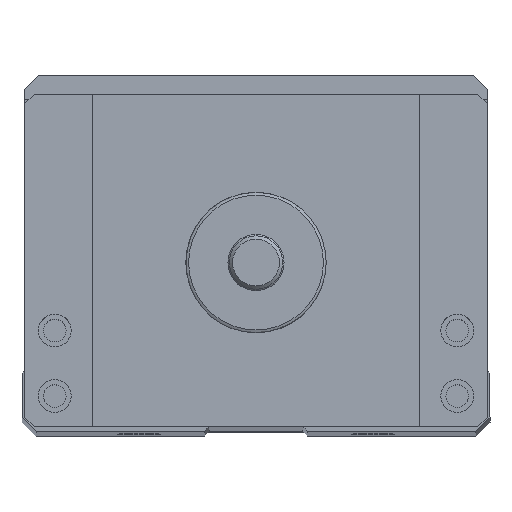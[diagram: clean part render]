
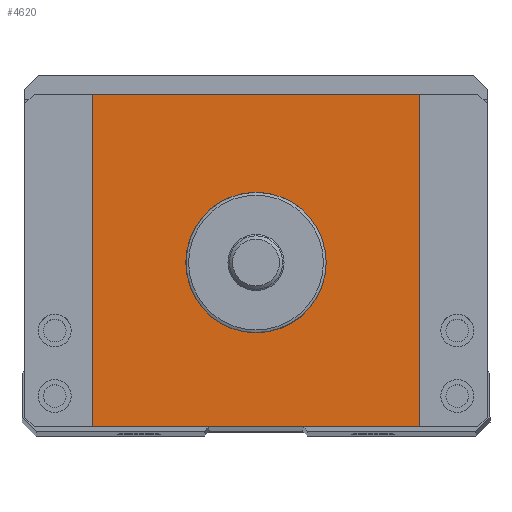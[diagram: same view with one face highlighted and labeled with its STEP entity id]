
A CAD part, top view. The second image highlights one B-rep face of the part: STEP entity #4620.
In plain terms, the highlighted planar face has unit normal (0, 0, 1).
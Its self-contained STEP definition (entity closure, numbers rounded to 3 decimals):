
#4620=ADVANCED_FACE('',(#5410,#5411),#4972,.T.);
#4972=PLANE('',#15098);
#5410=FACE_BOUND('',#6292,.T.);
#5411=FACE_BOUND('',#6293,.T.);
#6292=EDGE_LOOP('',(#9675));
#6293=EDGE_LOOP('',(#9676,#9677,#9678,#9679));
#6770=CIRCLE('',#15097,7.5);
#9675=ORIENTED_EDGE('',*,*,#12269,.T.);
#9676=ORIENTED_EDGE('',*,*,#12270,.T.);
#9677=ORIENTED_EDGE('',*,*,#12271,.T.);
#9678=ORIENTED_EDGE('',*,*,#12266,.T.);
#9679=ORIENTED_EDGE('',*,*,#12272,.T.);
#10784=VERTEX_POINT('',#29430);
#10785=VERTEX_POINT('',#29432);
#10787=VERTEX_POINT('',#29438);
#10788=VERTEX_POINT('',#29440);
#10789=VERTEX_POINT('',#29441);
#12266=EDGE_CURVE('',#10785,#10784,#13145,.T.);
#12269=EDGE_CURVE('',#10787,#10787,#6770,.T.);
#12270=EDGE_CURVE('',#10788,#10789,#13147,.T.);
#12271=EDGE_CURVE('',#10789,#10785,#13148,.T.);
#12272=EDGE_CURVE('',#10784,#10788,#13149,.T.);
#13145=LINE('',#29431,#14012);
#13147=LINE('',#29439,#14014);
#13148=LINE('',#29442,#14015);
#13149=LINE('',#29443,#14016);
#14012=VECTOR('',#18081,1.);
#14014=VECTOR('',#18089,1.);
#14015=VECTOR('',#18090,1.);
#14016=VECTOR('',#18091,1.);
#15097=AXIS2_PLACEMENT_3D('',#29437,#18087,#18088);
#15098=AXIS2_PLACEMENT_3D('',#29444,#18092,#18093);
#18081=DIRECTION('',(-1.,0.,0.));
#18087=DIRECTION('',(0.,0.,-1.));
#18088=DIRECTION('',(1.,0.,0.));
#18089=DIRECTION('',(1.,0.,0.));
#18090=DIRECTION('',(0.,1.,0.));
#18091=DIRECTION('',(0.,-1.,0.));
#18092=DIRECTION('',(0.,0.,1.));
#18093=DIRECTION('',(1.,0.,0.));
#29430=CARTESIAN_POINT('',(-17.5,-4.5,151.5));
#29431=CARTESIAN_POINT('',(24.7,-4.5,151.5));
#29432=CARTESIAN_POINT('',(17.5,-4.5,151.5));
#29437=CARTESIAN_POINT('',(0.,-22.5,151.5));
#29438=CARTESIAN_POINT('',(7.5,-22.5,151.5));
#29439=CARTESIAN_POINT('',(-24.7,-40.,151.5));
#29440=CARTESIAN_POINT('',(-17.5,-40.,151.5));
#29441=CARTESIAN_POINT('',(17.5,-40.,151.5));
#29442=CARTESIAN_POINT('',(17.5,-40.,151.5));
#29443=CARTESIAN_POINT('',(-17.5,-40.,151.5));
#29444=CARTESIAN_POINT('',(24.7,-40.,151.5));
